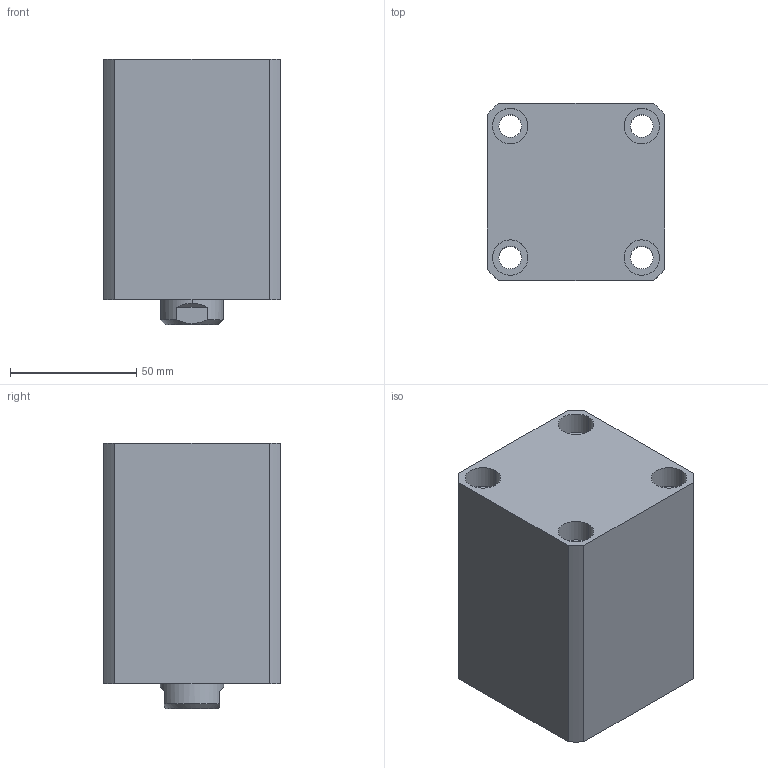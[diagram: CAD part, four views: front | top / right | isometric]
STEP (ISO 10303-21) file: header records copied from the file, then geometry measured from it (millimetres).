
FILE_DESCRIPTION (( 'STEP AP214' ), '1' );
FILE_NAME ('chtb-sd40x40n_asm.STEP', '2018-06-07T08:34:36', ( 'Windows' ), ( 'Microsoft' ), 'SwSTEP 2.0', 'SolidWorks 2015', '' );
FILE_SCHEMA (( 'AUTOMOTIVE_DESIGN' ));
Length unit declared in the file: millimetre
Products named in the file (4): CHTB-SD40X40NHSG; CHTB-SD40X40NBT; CHTB-SD40QG; chtb-sd40x40n_asm
Assembly tree (3 placements, depth 2):
  chtb-sd40x40n_asm
    CHTB-SD40QG
    CHTB-SD40X40NBT
    CHTB-SD40X40NHSG
Bounding box: 70 x 70 x 105 mm (x, y, z)
Volume: 393201 mm3; surface area: 82653.1 mm2
Topology: 3 solids, 3 shells, 157 faces, 401 edges, 266 vertices
Faces by surface type: cylinder 80, plane 36, bspline 14, torus 14, cone 13
Entity records: 9977 total; most frequent: CARTESIAN_POINT 6053, ORIENTED_EDGE 790, DIRECTION 768, EDGE_CURVE 395, AXIS2_PLACEMENT_3D 328, VERTEX_POINT 266, EDGE_LOOP 193, CIRCLE 179
